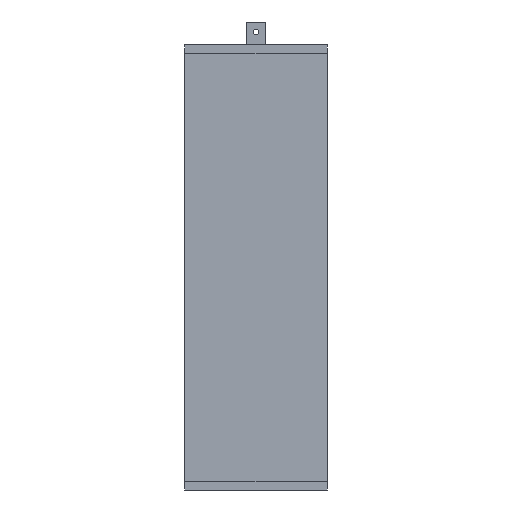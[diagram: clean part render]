
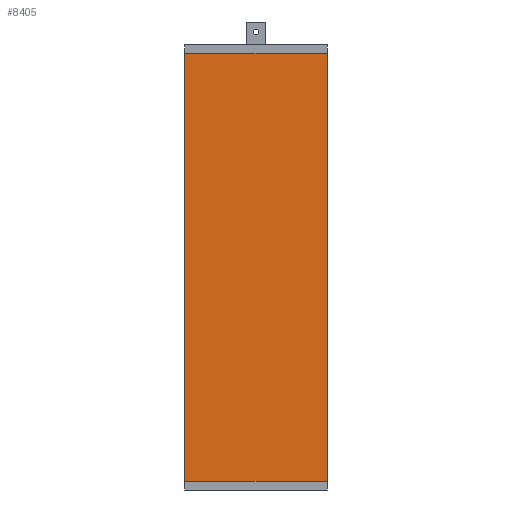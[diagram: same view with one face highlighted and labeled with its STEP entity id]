
A CAD part, front view. The second image highlights one B-rep face of the part: STEP entity #8405.
In plain terms, the highlighted planar face has unit normal (0, -1, 0).
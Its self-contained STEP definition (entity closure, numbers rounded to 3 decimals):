
#8189 = EDGE_CURVE('',#8190,#8192,#8194,.T.);
#8190 = VERTEX_POINT('',#8191);
#8191 = CARTESIAN_POINT('',(-100.,-52.,12.));
#8192 = VERTEX_POINT('',#8193);
#8193 = CARTESIAN_POINT('',(-100.,-52.,612.));
#8194 = SURFACE_CURVE('',#8195,(#8199,#8211),.PCURVE_S1.);
#8195 = LINE('',#8196,#8197);
#8196 = CARTESIAN_POINT('',(-100.,-52.,12.));
#8197 = VECTOR('',#8198,1.);
#8198 = DIRECTION('',(0.,0.,1.));
#8199 = PCURVE('',#8200,#8205);
#8200 = PLANE('',#8201);
#8201 = AXIS2_PLACEMENT_3D('',#8202,#8203,#8204);
#8202 = CARTESIAN_POINT('',(-100.,-52.,12.));
#8203 = DIRECTION('',(1.,0.,0.));
#8204 = DIRECTION('',(0.,0.,1.));
#8205 = DEFINITIONAL_REPRESENTATION('',(#8206),#8210);
#8206 = LINE('',#8207,#8208);
#8207 = CARTESIAN_POINT('',(0.,0.));
#8208 = VECTOR('',#8209,1.);
#8209 = DIRECTION('',(1.,0.));
#8210 = ( GEOMETRIC_REPRESENTATION_CONTEXT(2) 
PARAMETRIC_REPRESENTATION_CONTEXT() REPRESENTATION_CONTEXT('2D SPACE',''
  ) );
#8211 = PCURVE('',#8212,#8217);
#8212 = PLANE('',#8213);
#8213 = AXIS2_PLACEMENT_3D('',#8214,#8215,#8216);
#8214 = CARTESIAN_POINT('',(-100.,-52.,12.));
#8215 = DIRECTION('',(0.,1.,0.));
#8216 = DIRECTION('',(0.,0.,1.));
#8217 = DEFINITIONAL_REPRESENTATION('',(#8218),#8222);
#8218 = LINE('',#8219,#8220);
#8219 = CARTESIAN_POINT('',(0.,0.));
#8220 = VECTOR('',#8221,1.);
#8221 = DIRECTION('',(1.,0.));
#8222 = ( GEOMETRIC_REPRESENTATION_CONTEXT(2) 
PARAMETRIC_REPRESENTATION_CONTEXT() REPRESENTATION_CONTEXT('2D SPACE',''
  ) );
#8240 = PLANE('',#8241);
#8241 = AXIS2_PLACEMENT_3D('',#8242,#8243,#8244);
#8242 = CARTESIAN_POINT('',(-100.,-52.,12.));
#8243 = DIRECTION('',(0.,0.,1.));
#8244 = DIRECTION('',(1.,0.,0.));
#8294 = PLANE('',#8295);
#8295 = AXIS2_PLACEMENT_3D('',#8296,#8297,#8298);
#8296 = CARTESIAN_POINT('',(-100.,-52.,612.));
#8297 = DIRECTION('',(0.,0.,1.));
#8298 = DIRECTION('',(1.,0.,0.));
#8309 = EDGE_CURVE('',#8310,#8312,#8314,.T.);
#8310 = VERTEX_POINT('',#8311);
#8311 = CARTESIAN_POINT('',(100.,-52.,12.));
#8312 = VERTEX_POINT('',#8313);
#8313 = CARTESIAN_POINT('',(100.,-52.,612.));
#8314 = SURFACE_CURVE('',#8315,(#8319,#8331),.PCURVE_S1.);
#8315 = LINE('',#8316,#8317);
#8316 = CARTESIAN_POINT('',(100.,-52.,12.));
#8317 = VECTOR('',#8318,1.);
#8318 = DIRECTION('',(0.,0.,1.));
#8319 = PCURVE('',#8320,#8325);
#8320 = PLANE('',#8321);
#8321 = AXIS2_PLACEMENT_3D('',#8322,#8323,#8324);
#8322 = CARTESIAN_POINT('',(100.,-52.,12.));
#8323 = DIRECTION('',(1.,0.,0.));
#8324 = DIRECTION('',(0.,0.,1.));
#8325 = DEFINITIONAL_REPRESENTATION('',(#8326),#8330);
#8326 = LINE('',#8327,#8328);
#8327 = CARTESIAN_POINT('',(0.,0.));
#8328 = VECTOR('',#8329,1.);
#8329 = DIRECTION('',(1.,0.));
#8330 = ( GEOMETRIC_REPRESENTATION_CONTEXT(2) 
PARAMETRIC_REPRESENTATION_CONTEXT() REPRESENTATION_CONTEXT('2D SPACE',''
  ) );
#8331 = PCURVE('',#8212,#8332);
#8332 = DEFINITIONAL_REPRESENTATION('',(#8333),#8337);
#8333 = LINE('',#8334,#8335);
#8334 = CARTESIAN_POINT('',(0.,200.));
#8335 = VECTOR('',#8336,1.);
#8336 = DIRECTION('',(1.,0.));
#8337 = ( GEOMETRIC_REPRESENTATION_CONTEXT(2) 
PARAMETRIC_REPRESENTATION_CONTEXT() REPRESENTATION_CONTEXT('2D SPACE',''
  ) );
#8405 = ADVANCED_FACE('',(#8406),#8212,.F.);
#8406 = FACE_BOUND('',#8407,.F.);
#8407 = EDGE_LOOP('',(#8408,#8429,#8430,#8451));
#8408 = ORIENTED_EDGE('',*,*,#8409,.F.);
#8409 = EDGE_CURVE('',#8190,#8310,#8410,.T.);
#8410 = SURFACE_CURVE('',#8411,(#8415,#8422),.PCURVE_S1.);
#8411 = LINE('',#8412,#8413);
#8412 = CARTESIAN_POINT('',(-100.,-52.,12.));
#8413 = VECTOR('',#8414,1.);
#8414 = DIRECTION('',(1.,0.,0.));
#8415 = PCURVE('',#8212,#8416);
#8416 = DEFINITIONAL_REPRESENTATION('',(#8417),#8421);
#8417 = LINE('',#8418,#8419);
#8418 = CARTESIAN_POINT('',(0.,0.));
#8419 = VECTOR('',#8420,1.);
#8420 = DIRECTION('',(0.,1.));
#8421 = ( GEOMETRIC_REPRESENTATION_CONTEXT(2) 
PARAMETRIC_REPRESENTATION_CONTEXT() REPRESENTATION_CONTEXT('2D SPACE',''
  ) );
#8422 = PCURVE('',#8240,#8423);
#8423 = DEFINITIONAL_REPRESENTATION('',(#8424),#8428);
#8424 = LINE('',#8425,#8426);
#8425 = CARTESIAN_POINT('',(0.,0.));
#8426 = VECTOR('',#8427,1.);
#8427 = DIRECTION('',(1.,0.));
#8428 = ( GEOMETRIC_REPRESENTATION_CONTEXT(2) 
PARAMETRIC_REPRESENTATION_CONTEXT() REPRESENTATION_CONTEXT('2D SPACE',''
  ) );
#8429 = ORIENTED_EDGE('',*,*,#8189,.T.);
#8430 = ORIENTED_EDGE('',*,*,#8431,.T.);
#8431 = EDGE_CURVE('',#8192,#8312,#8432,.T.);
#8432 = SURFACE_CURVE('',#8433,(#8437,#8444),.PCURVE_S1.);
#8433 = LINE('',#8434,#8435);
#8434 = CARTESIAN_POINT('',(-100.,-52.,612.));
#8435 = VECTOR('',#8436,1.);
#8436 = DIRECTION('',(1.,0.,0.));
#8437 = PCURVE('',#8212,#8438);
#8438 = DEFINITIONAL_REPRESENTATION('',(#8439),#8443);
#8439 = LINE('',#8440,#8441);
#8440 = CARTESIAN_POINT('',(600.,0.));
#8441 = VECTOR('',#8442,1.);
#8442 = DIRECTION('',(0.,1.));
#8443 = ( GEOMETRIC_REPRESENTATION_CONTEXT(2) 
PARAMETRIC_REPRESENTATION_CONTEXT() REPRESENTATION_CONTEXT('2D SPACE',''
  ) );
#8444 = PCURVE('',#8294,#8445);
#8445 = DEFINITIONAL_REPRESENTATION('',(#8446),#8450);
#8446 = LINE('',#8447,#8448);
#8447 = CARTESIAN_POINT('',(0.,0.));
#8448 = VECTOR('',#8449,1.);
#8449 = DIRECTION('',(1.,0.));
#8450 = ( GEOMETRIC_REPRESENTATION_CONTEXT(2) 
PARAMETRIC_REPRESENTATION_CONTEXT() REPRESENTATION_CONTEXT('2D SPACE',''
  ) );
#8451 = ORIENTED_EDGE('',*,*,#8309,.F.);
